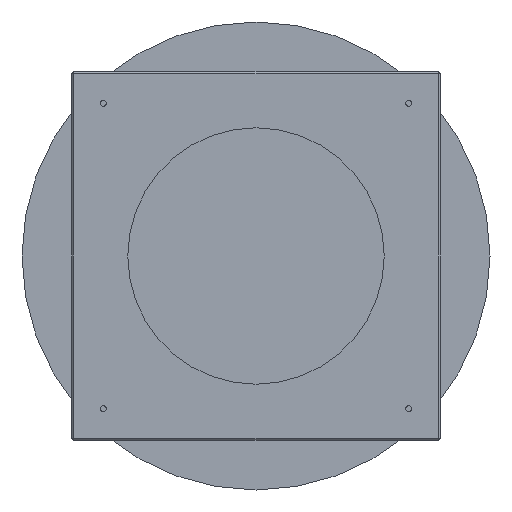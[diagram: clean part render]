
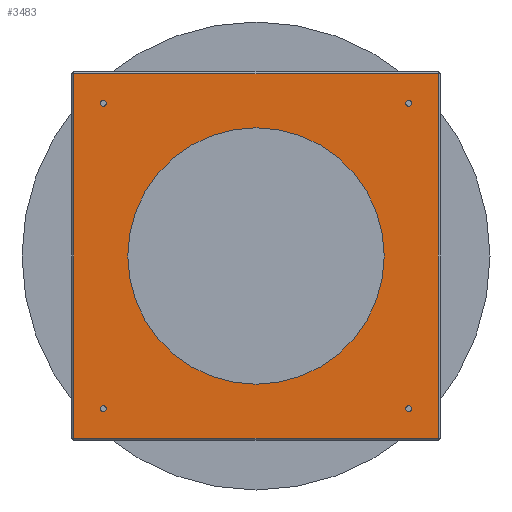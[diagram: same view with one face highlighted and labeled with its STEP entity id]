
A CAD part, front view. The second image highlights one B-rep face of the part: STEP entity #3483.
In plain terms, the highlighted planar face has unit normal (0, -1, 0).
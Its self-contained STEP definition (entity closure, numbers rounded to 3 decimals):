
#3483=ADVANCED_FACE('',(#7503,#7504,#7505,#7506,#7507,#7508),#7509,.F.);
#7503=FACE_BOUND('',#11532,.T.);
#7504=FACE_BOUND('',#11533,.T.);
#7505=FACE_BOUND('',#11534,.T.);
#7506=FACE_BOUND('',#11535,.T.);
#7507=FACE_BOUND('',#11536,.T.);
#7508=FACE_OUTER_BOUND('',#11537,.T.);
#7509=PLANE('',#11538);
#11532=EDGE_LOOP('',(#23090,#23091));
#11533=EDGE_LOOP('',(#23092,#23093));
#11534=EDGE_LOOP('',(#23094,#23095));
#11535=EDGE_LOOP('',(#23096,#23097));
#11536=EDGE_LOOP('',(#23098,#23099));
#11537=EDGE_LOOP('',(#23100,#23101,#23102,#23103));
#11538=AXIS2_PLACEMENT_3D('',#23104,#23105,#23106);
#23090=ORIENTED_EDGE('',*,*,#24404,.T.);
#23091=ORIENTED_EDGE('',*,*,#24371,.T.);
#23092=ORIENTED_EDGE('',*,*,#27742,.T.);
#23093=ORIENTED_EDGE('',*,*,#23205,.T.);
#23094=ORIENTED_EDGE('',*,*,#27745,.T.);
#23095=ORIENTED_EDGE('',*,*,#23200,.T.);
#23096=ORIENTED_EDGE('',*,*,#27748,.T.);
#23097=ORIENTED_EDGE('',*,*,#23195,.T.);
#23098=ORIENTED_EDGE('',*,*,#27751,.T.);
#23099=ORIENTED_EDGE('',*,*,#23190,.T.);
#23100=ORIENTED_EDGE('',*,*,#27759,.F.);
#23101=ORIENTED_EDGE('',*,*,#27765,.T.);
#23102=ORIENTED_EDGE('',*,*,#27771,.T.);
#23103=ORIENTED_EDGE('',*,*,#27799,.F.);
#23104=CARTESIAN_POINT('',(0.0,-244.0,0.0));
#23105=DIRECTION('',(0.0,1.0,0.0));
#23106=DIRECTION('',(0.0,0.0,1.0));
#23190=EDGE_CURVE('',#27839,#27843,#27845,.T.);
#23195=EDGE_CURVE('',#27848,#27852,#27854,.T.);
#23200=EDGE_CURVE('',#27857,#27861,#27863,.T.);
#23205=EDGE_CURVE('',#27866,#27870,#27872,.T.);
#24371=EDGE_CURVE('',#30192,#30196,#30198,.T.);
#24404=EDGE_CURVE('',#30196,#30192,#30244,.T.);
#27742=EDGE_CURVE('',#27870,#27866,#34683,.T.);
#27745=EDGE_CURVE('',#27861,#27857,#34686,.T.);
#27748=EDGE_CURVE('',#27852,#27848,#34689,.T.);
#27751=EDGE_CURVE('',#27843,#27839,#34692,.T.);
#27759=EDGE_CURVE('',#34697,#34703,#34704,.T.);
#27765=EDGE_CURVE('',#34697,#34711,#34713,.T.);
#27771=EDGE_CURVE('',#34711,#34715,#34722,.T.);
#27799=EDGE_CURVE('',#34703,#34715,#34763,.T.);
#27839=VERTEX_POINT('',#34806);
#27843=VERTEX_POINT('',#34811);
#27845=CIRCLE('',#34814,7.0);
#27848=VERTEX_POINT('',#34817);
#27852=VERTEX_POINT('',#34822);
#27854=CIRCLE('',#34825,7.0);
#27857=VERTEX_POINT('',#34828);
#27861=VERTEX_POINT('',#34833);
#27863=CIRCLE('',#34836,7.0);
#27866=VERTEX_POINT('',#34839);
#27870=VERTEX_POINT('',#34844);
#27872=CIRCLE('',#34847,7.0);
#30192=VERTEX_POINT('',#37193);
#30196=VERTEX_POINT('',#37198);
#30198=CIRCLE('',#37201,315.0);
#30244=CIRCLE('',#37251,315.0);
#34683=CIRCLE('',#42790,7.0);
#34686=CIRCLE('',#42793,7.0);
#34689=CIRCLE('',#42796,7.0);
#34692=CIRCLE('',#42799,7.0);
#34697=VERTEX_POINT('',#42804);
#34703=VERTEX_POINT('',#42810);
#34704=LINE('',#42811,#42812);
#34711=VERTEX_POINT('',#42821);
#34713=LINE('',#42823,#42824);
#34715=VERTEX_POINT('',#42826);
#34722=LINE('',#42833,#42834);
#34763=LINE('',#42883,#42884);
#34806=CARTESIAN_POINT('',(-368.0,-244.0,-375.0));
#34811=CARTESIAN_POINT('',(-382.0,-244.0,-375.0));
#34814=AXIS2_PLACEMENT_3D('',#42937,#42938,#42939);
#34817=CARTESIAN_POINT('',(382.0,-244.0,-375.0));
#34822=CARTESIAN_POINT('',(368.0,-244.0,-375.0));
#34825=AXIS2_PLACEMENT_3D('',#42945,#42946,#42947);
#34828=CARTESIAN_POINT('',(382.0,-244.0,375.0));
#34833=CARTESIAN_POINT('',(368.0,-244.0,375.0));
#34836=AXIS2_PLACEMENT_3D('',#42953,#42954,#42955);
#34839=CARTESIAN_POINT('',(-368.0,-244.0,375.0));
#34844=CARTESIAN_POINT('',(-382.0,-244.0,375.0));
#34847=AXIS2_PLACEMENT_3D('',#42961,#42962,#42963);
#37193=CARTESIAN_POINT('',(315.0,-244.0,0.));
#37198=CARTESIAN_POINT('',(-315.0,-244.0,0.));
#37201=AXIS2_PLACEMENT_3D('',#46388,#46389,#46390);
#37251=AXIS2_PLACEMENT_3D('',#46446,#46447,#46448);
#42790=AXIS2_PLACEMENT_3D('',#50936,#50937,#50938);
#42793=AXIS2_PLACEMENT_3D('',#50942,#50943,#50944);
#42796=AXIS2_PLACEMENT_3D('',#50948,#50949,#50950);
#42799=AXIS2_PLACEMENT_3D('',#50954,#50955,#50956);
#42804=CARTESIAN_POINT('',(447.5,-244.0,447.5));
#42810=CARTESIAN_POINT('',(447.5,-244.0,-447.5));
#42811=CARTESIAN_POINT('',(447.5,-244.0,0.0));
#42812=VECTOR('',#50969,1.0);
#42821=CARTESIAN_POINT('',(-447.5,-244.0,447.5));
#42823=CARTESIAN_POINT('',(0.0,-244.0,447.5));
#42824=VECTOR('',#50978,1.0);
#42826=CARTESIAN_POINT('',(-447.5,-244.0,-447.5));
#42833=CARTESIAN_POINT('',(-447.5,-244.0,0.0));
#42834=VECTOR('',#50988,1.0);
#42883=CARTESIAN_POINT('',(0.,-244.0,-447.5));
#42884=VECTOR('',#51033,1.0);
#42937=CARTESIAN_POINT('',(-375.0,-244.0,-375.0));
#42938=DIRECTION('',(-0.0,1.0,0.0));
#42939=DIRECTION('',(1.0,0.0,0.0));
#42945=CARTESIAN_POINT('',(375.0,-244.0,-375.0));
#42946=DIRECTION('',(-0.0,1.0,0.0));
#42947=DIRECTION('',(1.0,0.0,0.0));
#42953=CARTESIAN_POINT('',(375.0,-244.0,375.0));
#42954=DIRECTION('',(-0.0,1.0,0.0));
#42955=DIRECTION('',(1.0,0.0,0.0));
#42961=CARTESIAN_POINT('',(-375.0,-244.0,375.0));
#42962=DIRECTION('',(-0.0,1.0,0.0));
#42963=DIRECTION('',(1.0,0.0,0.0));
#46388=CARTESIAN_POINT('',(0.0,-244.0,0.0));
#46389=DIRECTION('',(-0.0,1.0,0.0));
#46390=DIRECTION('',(1.0,0.0,0.0));
#46446=CARTESIAN_POINT('',(0.0,-244.0,0.0));
#46447=DIRECTION('',(-0.0,1.0,0.0));
#46448=DIRECTION('',(1.0,0.0,0.0));
#50936=CARTESIAN_POINT('',(-375.0,-244.0,375.0));
#50937=DIRECTION('',(-0.0,1.0,0.0));
#50938=DIRECTION('',(1.0,0.0,0.0));
#50942=CARTESIAN_POINT('',(375.0,-244.0,375.0));
#50943=DIRECTION('',(-0.0,1.0,0.0));
#50944=DIRECTION('',(1.0,0.0,0.0));
#50948=CARTESIAN_POINT('',(375.0,-244.0,-375.0));
#50949=DIRECTION('',(-0.0,1.0,0.0));
#50950=DIRECTION('',(1.0,0.0,0.0));
#50954=CARTESIAN_POINT('',(-375.0,-244.0,-375.0));
#50955=DIRECTION('',(-0.0,1.0,0.0));
#50956=DIRECTION('',(1.0,0.0,0.0));
#50969=DIRECTION('',(0.0,0.0,-1.0));
#50978=DIRECTION('',(-1.0,0.,0.));
#50988=DIRECTION('',(0.0,0.0,-1.0));
#51033=DIRECTION('',(-1.0,0.,0.));
